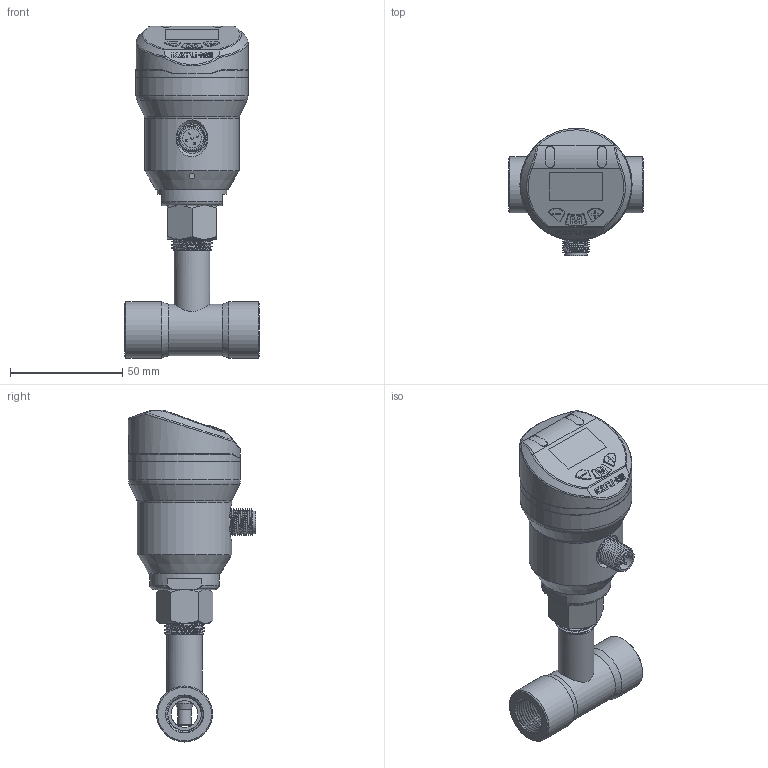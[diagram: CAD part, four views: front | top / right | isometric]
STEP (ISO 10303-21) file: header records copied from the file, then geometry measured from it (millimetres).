
FILE_DESCRIPTION( (''), '2;1');
FILE_NAME( 'QEKE_M18_L60_G3-8_tee.step', '2026-06-25T11:19:51+08:00', (''), (''), '', '', '');
FILE_SCHEMA (('AP203_CONFIGURATION_CONTROLLED_3D_DESIGN_OF_MECHANICAL_PARTS_AND_ASSEMBLIES_MIM_LF { 1 0 10303 403 2 1 2}'));
Length unit declared in the file: millimetre
Products named in the file (1): QEKE M18_L60_G3-8_tee
Bounding box: 60 x 56.7 x 148.11 mm (x, y, z)
Volume: 116392.1 mm3; surface area: 47323.2 mm2
Topology: 11 solids, 13 shells, 641 faces, 1594 edges, 1027 vertices
Faces by surface type: plane 327, cylinder 150, cone 64, bspline 57, torus 33, sphere 10
Full cylindrical faces by diameter (mm): 1 x10, 2.5 x1, 2.7 x5, 3.1 x1, 3.5 x2, 6 x2, 6.5 x1, 8 x1, 8.4 x1, 9.7 x1, 9.8 x1, 10.1 x1, 10.2 x2, 11 x2, 11.6 x1, 12 x3, 13.4 x1, 13.7 x1, 15.4 x1, 16 x1, 16.1 x1, 16.5 x6, 21 x2, 23 x1, 25 x2, 31 x1, 42 x1, 48 x1, 50 x3
Entity records: 28674 total; most frequent: CARTESIAN_POINT 13789, ORIENTED_EDGE 2822, DIRECTION 2768, EDGE_CURVE 1411, AXIS2_PLACEMENT_3D 1010, VERTEX_POINT 957, EDGE_LOOP 800, LINE 748
